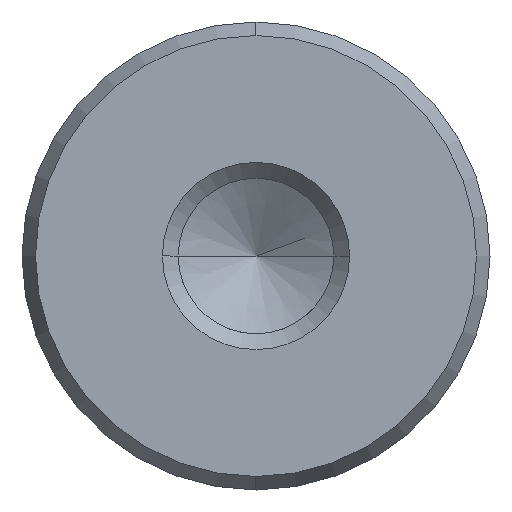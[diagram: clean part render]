
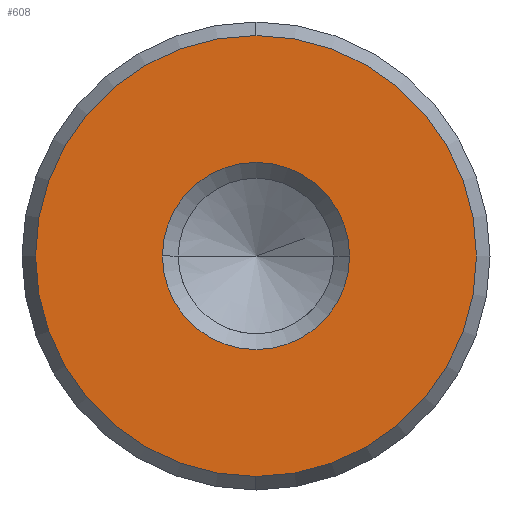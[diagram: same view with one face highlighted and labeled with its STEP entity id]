
A CAD part, left-side view. The second image highlights one B-rep face of the part: STEP entity #608.
In plain terms, the highlighted planar face has unit normal (-1, 0, 0).
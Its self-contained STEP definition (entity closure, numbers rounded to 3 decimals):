
#522=CARTESIAN_POINT('Vertex',(0.,0.,-9.423)) ;
#525=CARTESIAN_POINT('Axis2P3D Location',(0.,0.,0.)) ;
#529=CARTESIAN_POINT('Vertex',(0.,9.423,0.)) ;
#532=CARTESIAN_POINT('Axis2P3D Location',(0.,0.,0.)) ;
#536=CARTESIAN_POINT('Vertex',(0.,0.,9.423)) ;
#558=CARTESIAN_POINT('Axis2P3D Location',(0.,0.,0.)) ;
#562=CARTESIAN_POINT('Vertex',(0.,-9.423,0.)) ;
#565=CARTESIAN_POINT('Axis2P3D Location',(0.,0.,0.)) ;
#579=CARTESIAN_POINT('Axis2P3D Location',(0.,0.,0.)) ;
#590=CARTESIAN_POINT('Axis2P3D Location',(0.,0.,0.)) ;
#594=CARTESIAN_POINT('Vertex',(0.,4.,0.)) ;
#596=CARTESIAN_POINT('Vertex',(0.,-4.,0.)) ;
#599=CARTESIAN_POINT('Axis2P3D Location',(0.,0.,0.)) ;
#526=DIRECTION('Axis2P3D Direction',(1.,0.,-0.)) ;
#533=DIRECTION('Axis2P3D Direction',(1.,0.,-0.)) ;
#559=DIRECTION('Axis2P3D Direction',(1.,0.,-0.)) ;
#566=DIRECTION('Axis2P3D Direction',(1.,0.,-0.)) ;
#580=DIRECTION('Axis2P3D Direction',(1.,0.,-0.)) ;
#581=DIRECTION('Axis2P3D XDirection',(-0.,0.,-1.)) ;
#591=DIRECTION('Axis2P3D Direction',(1.,0.,-0.)) ;
#600=DIRECTION('Axis2P3D Direction',(1.,0.,-0.)) ;
#527=AXIS2_PLACEMENT_3D('Circle Axis2P3D',#525,#526,$) ;
#534=AXIS2_PLACEMENT_3D('Circle Axis2P3D',#532,#533,$) ;
#560=AXIS2_PLACEMENT_3D('Circle Axis2P3D',#558,#559,$) ;
#567=AXIS2_PLACEMENT_3D('Circle Axis2P3D',#565,#566,$) ;
#582=AXIS2_PLACEMENT_3D('Plane Axis2P3D',#579,#580,#581) ;
#592=AXIS2_PLACEMENT_3D('Circle Axis2P3D',#590,#591,$) ;
#601=AXIS2_PLACEMENT_3D('Circle Axis2P3D',#599,#600,$) ;
#585=ORIENTED_EDGE('',*,*,#531,.F.) ;
#586=ORIENTED_EDGE('',*,*,#569,.F.) ;
#587=ORIENTED_EDGE('',*,*,#564,.F.) ;
#588=ORIENTED_EDGE('',*,*,#538,.F.) ;
#605=ORIENTED_EDGE('',*,*,#598,.T.) ;
#606=ORIENTED_EDGE('',*,*,#603,.T.) ;
#607=FACE_BOUND('',#604,.T.) ;
#608=ADVANCED_FACE('720-20x250',(#589,#607),#583,.F.) ;
#528=CIRCLE('generated circle',#527,9.423) ;
#535=CIRCLE('generated circle',#534,9.423) ;
#561=CIRCLE('generated circle',#560,9.423) ;
#568=CIRCLE('generated circle',#567,9.423) ;
#593=CIRCLE('generated circle',#592,4.) ;
#602=CIRCLE('generated circle',#601,4.) ;
#531=EDGE_CURVE('',#523,#530,#528,.T.) ;
#538=EDGE_CURVE('',#530,#537,#535,.T.) ;
#564=EDGE_CURVE('',#537,#563,#561,.T.) ;
#569=EDGE_CURVE('',#563,#523,#568,.T.) ;
#598=EDGE_CURVE('',#595,#597,#593,.T.) ;
#603=EDGE_CURVE('',#597,#595,#602,.T.) ;
#584=EDGE_LOOP('',(#585,#586,#587,#588)) ;
#604=EDGE_LOOP('',(#605,#606)) ;
#589=FACE_OUTER_BOUND('',#584,.T.) ;
#583=PLANE('Plane',#582) ;
#523=VERTEX_POINT('',#522) ;
#530=VERTEX_POINT('',#529) ;
#537=VERTEX_POINT('',#536) ;
#563=VERTEX_POINT('',#562) ;
#595=VERTEX_POINT('',#594) ;
#597=VERTEX_POINT('',#596) ;
